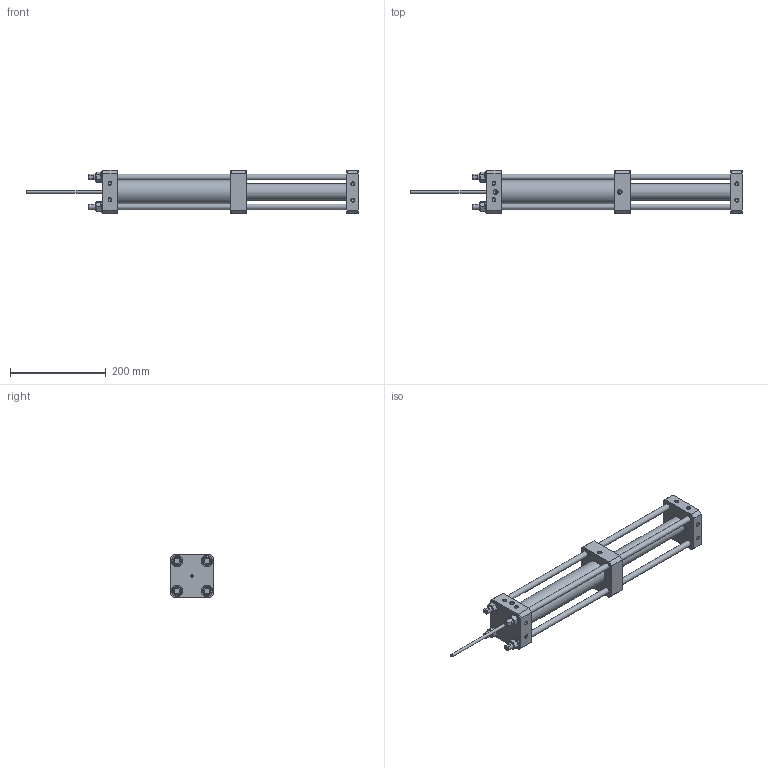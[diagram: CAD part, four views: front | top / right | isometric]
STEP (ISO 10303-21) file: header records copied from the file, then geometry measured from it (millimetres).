
FILE_DESCRIPTION(/* description */ (''),/* implementation_level */ '2;1');
FILE_NAME(/* name */ 'H32.1000.stp',/* time_stamp */ '2026-04-24T12:05:10+02:00',/* author */ ('janos'),/* organization */ (''),/* preprocessor_version */ 'ST-DEVELOPER v19.2',/* originating_system */ 'Autodesk Inventor 2024',/* authorisation */ '');
FILE_SCHEMA (('AUTOMOTIVE_DESIGN { 1 0 10303 214 3 1 1 }'));
Length unit declared in the file: millimetre
Products named in the file (1): HDÜ.BG.1000.32.1_Vereinfachen_1
Bounding box: 692 x 90 x 90 mm (x, y, z)
Volume: 1573722.3 mm3; surface area: 225026.3 mm2
Topology: 1 solids, 1 shells, 238 faces, 595 edges, 376 vertices
Faces by surface type: plane 91, cone 89, cylinder 57, torus 1
Full cylindrical faces by diameter (mm): 3 x2, 6 x1, 6.647 x16, 8.566 x2, 12 x8, 13 x4, 14.376 x1, 24 x4, 35 x1, 45 x1, 50 x1
Entity records: 7065 total; most frequent: CARTESIAN_POINT 1480, DIRECTION 1184, ORIENTED_EDGE 1158, EDGE_CURVE 579, AXIS2_PLACEMENT_3D 476, VERTEX_POINT 376, EDGE_LOOP 291, FACE_OUTER_BOUND 238
